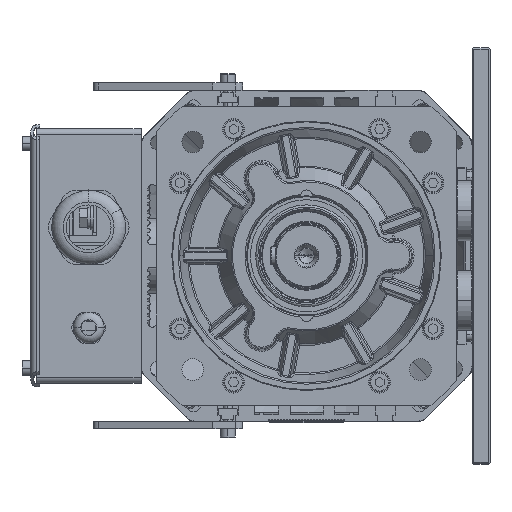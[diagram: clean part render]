
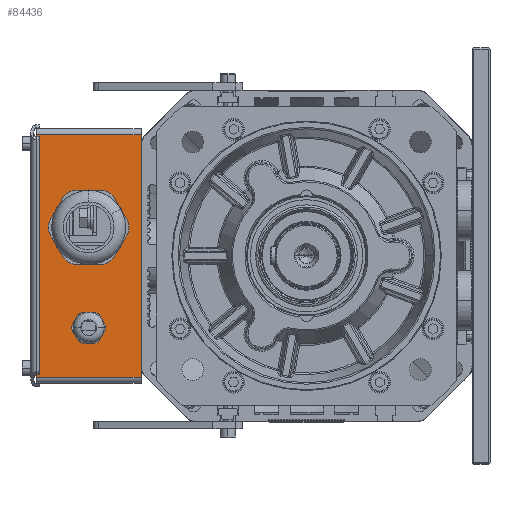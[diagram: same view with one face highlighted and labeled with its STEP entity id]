
A CAD part, left-side view. The second image highlights one B-rep face of the part: STEP entity #84436.
In plain terms, the highlighted planar face has unit normal (-1, 0, 0).
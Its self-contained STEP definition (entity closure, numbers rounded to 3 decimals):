
#82252=DIRECTION('',(0.,0.,1.));
#82253=VECTOR('',#82252,162.);
#82254=CARTESIAN_POINT('',(112.,110.5,-81.));
#82255=LINE('',#82254,#82253);
#82529=CARTESIAN_POINT('',(112.,145.5,-48.));
#82530=DIRECTION('',(-1.,0.,0.));
#82531=DIRECTION('',(0.,1.,0.));
#82532=AXIS2_PLACEMENT_3D('',#82529,#82530,#82531);
#82534=CARTESIAN_POINT('',(112.,145.5,-48.));
#82535=DIRECTION('',(-1.,0.,0.));
#82536=DIRECTION('',(0.,-1.,0.));
#82537=AXIS2_PLACEMENT_3D('',#82534,#82535,#82536);
#82539=CARTESIAN_POINT('',(112.,145.5,19.));
#82540=DIRECTION('',(-1.,0.,0.));
#82541=DIRECTION('',(0.,1.,0.));
#82542=AXIS2_PLACEMENT_3D('',#82539,#82540,#82541);
#82544=CARTESIAN_POINT('',(112.,145.5,19.));
#82545=DIRECTION('',(-1.,0.,0.));
#82546=DIRECTION('',(0.,-1.,0.));
#82547=AXIS2_PLACEMENT_3D('',#82544,#82545,#82546);
#82549=DIRECTION('',(0.,0.,1.));
#82550=VECTOR('',#82549,162.);
#82551=CARTESIAN_POINT('',(112.,180.5,-81.));
#82552=LINE('',#82551,#82550);
#83461=DIRECTION('',(0.,-1.,0.));
#83462=VECTOR('',#83461,70.);
#83463=CARTESIAN_POINT('',(112.,180.5,-81.));
#83464=LINE('',#83463,#83462);
#83481=DIRECTION('',(0.,1.,0.));
#83482=VECTOR('',#83481,70.);
#83483=CARTESIAN_POINT('',(112.,110.5,81.));
#83484=LINE('',#83483,#83482);
#83819=CARTESIAN_POINT('',(112.,155.5,-48.));
#83820=CARTESIAN_POINT('',(112.,135.5,-48.));
#83821=VERTEX_POINT('',#83819);
#83822=VERTEX_POINT('',#83820);
#83823=CARTESIAN_POINT('',(112.,170.5,19.));
#83824=CARTESIAN_POINT('',(112.,120.5,19.));
#83825=VERTEX_POINT('',#83823);
#83826=VERTEX_POINT('',#83824);
#83967=CARTESIAN_POINT('',(112.,110.5,-81.));
#83969=VERTEX_POINT('',#83967);
#83980=CARTESIAN_POINT('',(112.,110.5,81.));
#83982=VERTEX_POINT('',#83980);
#84015=CARTESIAN_POINT('',(112.,180.5,81.));
#84017=VERTEX_POINT('',#84015);
#84028=CARTESIAN_POINT('',(112.,180.5,-81.));
#84030=VERTEX_POINT('',#84028);
#84411=CARTESIAN_POINT('',(112.,110.5,-85.));
#84412=DIRECTION('',(-1.,0.,0.));
#84413=DIRECTION('',(0.,0.,1.));
#84414=AXIS2_PLACEMENT_3D('',#84411,#84412,#84413);
#84415=PLANE('',#84414);
#84417=ORIENTED_EDGE('',*,*,#84416,.F.);
#84418=ORIENTED_EDGE('',*,*,#84218,.F.);
#84420=ORIENTED_EDGE('',*,*,#84419,.F.);
#84421=ORIENTED_EDGE('',*,*,#84278,.T.);
#84422=EDGE_LOOP('',(#84417,#84418,#84420,#84421));
#84423=FACE_OUTER_BOUND('',#84422,.F.);
#84425=ORIENTED_EDGE('',*,*,#84424,.T.);
#84427=ORIENTED_EDGE('',*,*,#84426,.T.);
#84428=EDGE_LOOP('',(#84425,#84427));
#84429=FACE_BOUND('',#84428,.F.);
#84431=ORIENTED_EDGE('',*,*,#84430,.T.);
#84433=ORIENTED_EDGE('',*,*,#84432,.T.);
#84434=EDGE_LOOP('',(#84431,#84433));
#84435=FACE_BOUND('',#84434,.F.);
#84436=ADVANCED_FACE('',(#84423,#84429,#84435),#84415,.T.);
#82533=CIRCLE('',#82532,10.);
#82538=CIRCLE('',#82537,10.);
#82543=CIRCLE('',#82542,25.);
#82548=CIRCLE('',#82547,25.);
#84218=EDGE_CURVE('',#83969,#83982,#82255,.T.);
#84278=EDGE_CURVE('',#84030,#84017,#82552,.T.);
#84416=EDGE_CURVE('',#83982,#84017,#83484,.T.);
#84419=EDGE_CURVE('',#84030,#83969,#83464,.T.);
#84424=EDGE_CURVE('',#83825,#83826,#82543,.T.);
#84426=EDGE_CURVE('',#83826,#83825,#82548,.T.);
#84430=EDGE_CURVE('',#83821,#83822,#82533,.T.);
#84432=EDGE_CURVE('',#83822,#83821,#82538,.T.);
